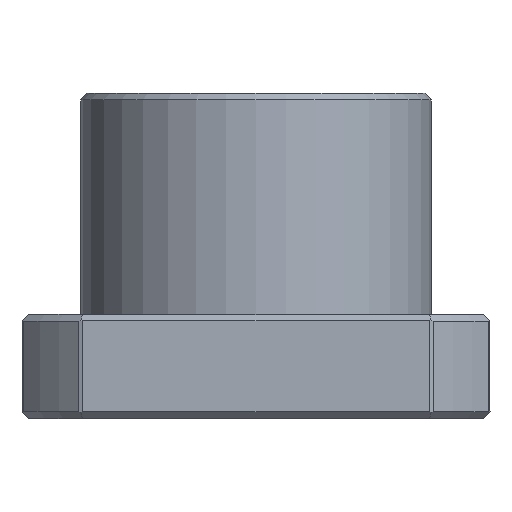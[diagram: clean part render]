
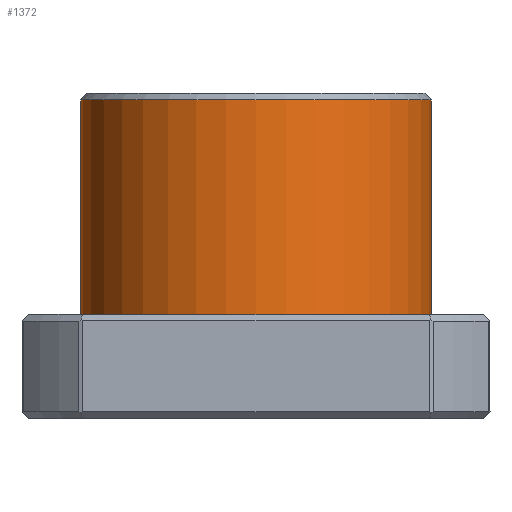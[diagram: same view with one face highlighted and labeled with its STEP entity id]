
A CAD part, front view. The second image highlights one B-rep face of the part: STEP entity #1372.
In plain terms, the highlighted cylindrical face has radius 13.5 mm (diameter 27 mm), a partial arc.
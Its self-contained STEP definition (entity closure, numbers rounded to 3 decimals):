
#1162 = VERTEX_POINT ( 'NONE', #4893 ) ;
#1249 = VERTEX_POINT ( 'NONE', #5108 ) ;
#1251 = EDGE_CURVE ( 'NONE', #1162, #1252, #5107, .T. ) ;
#1252 = VERTEX_POINT ( 'NONE', #5103 ) ;
#1255 = VERTEX_POINT ( 'NONE', #5097 ) ;
#1257 = EDGE_CURVE ( 'NONE', #1249, #1255, #5096, .T. ) ;
#1258 = ORIENTED_EDGE ( 'NONE', *, *, #1493, .T. ) ;
#1362 = EDGE_CURVE ( 'NONE', #1249, #1162, #5303, .T. ) ;
#1372 = ADVANCED_FACE ( 'NONE', ( #5342 ), #5339, .T. ) ;
#1373 = EDGE_LOOP ( 'NONE', ( #1374, #1375, #1376, #1258 ) ) ;
#1374 = ORIENTED_EDGE ( 'NONE', *, *, #1251, .F. ) ;
#1375 = ORIENTED_EDGE ( 'NONE', *, *, #1362, .F. ) ;
#1376 = ORIENTED_EDGE ( 'NONE', *, *, #1257, .T. ) ;
#1493 = EDGE_CURVE ( 'NONE', #1255, #1252, #5633, .T. ) ;
#4893 = CARTESIAN_POINT ( 'NONE',  ( 13.5, 0., 24.5 ) ) ;
#5093 = DIRECTION ( 'NONE',  ( 0., 0., -1. ) ) ;
#5094 = VECTOR ( 'NONE', #5093, 1000. ) ;
#5095 = CARTESIAN_POINT ( 'NONE',  ( -13.5, 0., 24.5 ) ) ;
#5096 = LINE ( 'NONE', #5095, #5094 ) ;
#5097 = CARTESIAN_POINT ( 'NONE',  ( -13.5, 0., 8. ) ) ;
#5103 = CARTESIAN_POINT ( 'NONE',  ( 13.5, 0., 8. ) ) ;
#5104 = DIRECTION ( 'NONE',  ( 0., 0., -1. ) ) ;
#5105 = VECTOR ( 'NONE', #5104, 1000. ) ;
#5106 = CARTESIAN_POINT ( 'NONE',  ( 13.5, 0., 24.5 ) ) ;
#5107 = LINE ( 'NONE', #5106, #5105 ) ;
#5108 = CARTESIAN_POINT ( 'NONE',  ( -13.5, 0., 24.5 ) ) ;
#5300 = DIRECTION ( 'NONE',  ( -1., 0., 0. ) ) ;
#5301 = DIRECTION ( 'NONE',  ( 0., 0., 1. ) ) ;
#5302 = AXIS2_PLACEMENT_3D ( 'NONE', #5308, #5301, #5300 ) ;
#5303 = CIRCLE ( 'NONE', #5302, 13.5 ) ;
#5308 = CARTESIAN_POINT ( 'NONE',  ( 0., 0., 24.5 ) ) ;
#5336 = DIRECTION ( 'NONE',  ( -1., 0., 0. ) ) ;
#5337 = DIRECTION ( 'NONE',  ( 0., 0., -1. ) ) ;
#5338 = AXIS2_PLACEMENT_3D ( 'NONE', #5341, #5337, #5336 ) ;
#5339 = CYLINDRICAL_SURFACE ( 'NONE', #5338, 13.5 ) ;
#5341 = CARTESIAN_POINT ( 'NONE',  ( 0., 0., 24.5 ) ) ;
#5342 = FACE_OUTER_BOUND ( 'NONE', #1373, .T. ) ;
#5630 = DIRECTION ( 'NONE',  ( -1., 0., 0. ) ) ;
#5631 = DIRECTION ( 'NONE',  ( 0., 0., 1. ) ) ;
#5632 = AXIS2_PLACEMENT_3D ( 'NONE', #5638, #5631, #5630 ) ;
#5633 = CIRCLE ( 'NONE', #5632, 13.5 ) ;
#5638 = CARTESIAN_POINT ( 'NONE',  ( 0., 0., 8. ) ) ;
